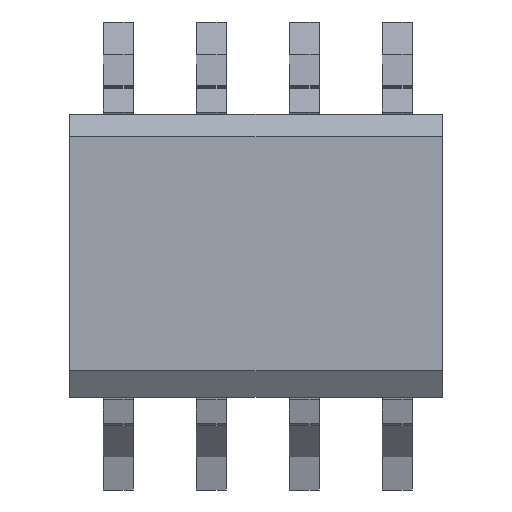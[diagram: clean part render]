
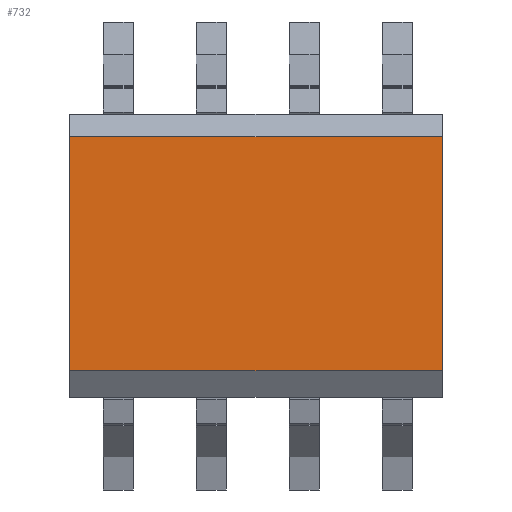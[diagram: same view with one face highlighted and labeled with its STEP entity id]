
A CAD part, top view. The second image highlights one B-rep face of the part: STEP entity #732.
In plain terms, the highlighted planar face has unit normal (0, 0, 1).
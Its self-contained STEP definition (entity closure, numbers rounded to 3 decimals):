
#32 = PLANE('',#33);
#33 = AXIS2_PLACEMENT_3D('',#34,#35,#36);
#34 = CARTESIAN_POINT('',(-2.5,-1.9,0.1));
#35 = DIRECTION('',(1.,0.,0.));
#36 = DIRECTION('',(0.,0.,1.));
#113 = VERTEX_POINT('',#114);
#114 = CARTESIAN_POINT('',(-2.5,1.599,1.7));
#127 = PLANE('',#128);
#128 = AXIS2_PLACEMENT_3D('',#129,#130,#131);
#129 = CARTESIAN_POINT('',(-3.5,-0.4,3.1));
#130 = DIRECTION('',(0.,0.574,0.819));
#131 = DIRECTION('',(1.,0.,0.));
#138 = EDGE_CURVE('',#139,#113,#141,.T.);
#139 = VERTEX_POINT('',#140);
#140 = CARTESIAN_POINT('',(-2.5,-1.543,1.7));
#141 = SURFACE_CURVE('',#142,(#146,#153),.PCURVE_S1.);
#142 = LINE('',#143,#144);
#143 = CARTESIAN_POINT('',(-2.5,-1.9,1.7));
#144 = VECTOR('',#145,1.);
#145 = DIRECTION('',(0.,1.,0.));
#146 = PCURVE('',#32,#147);
#147 = DEFINITIONAL_REPRESENTATION('',(#148),#152);
#148 = LINE('',#149,#150);
#149 = CARTESIAN_POINT('',(1.6,0.));
#150 = VECTOR('',#151,1.);
#151 = DIRECTION('',(0.,-1.));
#152 = ( GEOMETRIC_REPRESENTATION_CONTEXT(2) 
PARAMETRIC_REPRESENTATION_CONTEXT() REPRESENTATION_CONTEXT('2D SPACE',''
  ) );
#153 = PCURVE('',#154,#159);
#154 = PLANE('',#155);
#155 = AXIS2_PLACEMENT_3D('',#156,#157,#158);
#156 = CARTESIAN_POINT('',(-2.5,-1.9,1.7));
#157 = DIRECTION('',(0.,0.,1.));
#158 = DIRECTION('',(1.,0.,0.));
#159 = DEFINITIONAL_REPRESENTATION('',(#160),#164);
#160 = LINE('',#161,#162);
#161 = CARTESIAN_POINT('',(0.,0.));
#162 = VECTOR('',#163,1.);
#163 = DIRECTION('',(0.,1.));
#164 = ( GEOMETRIC_REPRESENTATION_CONTEXT(2) 
PARAMETRIC_REPRESENTATION_CONTEXT() REPRESENTATION_CONTEXT('2D SPACE',''
  ) );
#179 = PLANE('',#180);
#180 = AXIS2_PLACEMENT_3D('',#181,#182,#183);
#181 = CARTESIAN_POINT('',(-3.5,-2.4,1.1));
#182 = DIRECTION('',(0.,-0.574,0.819));
#183 = DIRECTION('',(1.,0.,0.));
#211 = PLANE('',#212);
#212 = AXIS2_PLACEMENT_3D('',#213,#214,#215);
#213 = CARTESIAN_POINT('',(2.5,-1.9,0.1));
#214 = DIRECTION('',(1.,0.,0.));
#215 = DIRECTION('',(0.,0.,1.));
#691 = EDGE_CURVE('',#139,#692,#694,.T.);
#692 = VERTEX_POINT('',#693);
#693 = CARTESIAN_POINT('',(2.5,-1.543,1.7));
#694 = SURFACE_CURVE('',#695,(#699,#705),.PCURVE_S1.);
#695 = LINE('',#696,#697);
#696 = CARTESIAN_POINT('',(-3.,-1.543,1.7));
#697 = VECTOR('',#698,1.);
#698 = DIRECTION('',(1.,0.,0.));
#699 = PCURVE('',#179,#700);
#700 = DEFINITIONAL_REPRESENTATION('',(#701),#704);
#701 = B_SPLINE_CURVE_WITH_KNOTS('',1,(#702,#703),.UNSPECIFIED.,.F.,.F.,
  (2,2),(0.5,5.5),.PIECEWISE_BEZIER_KNOTS.);
#702 = CARTESIAN_POINT('',(1.,1.046));
#703 = CARTESIAN_POINT('',(6.,1.046));
#704 = ( GEOMETRIC_REPRESENTATION_CONTEXT(2) 
PARAMETRIC_REPRESENTATION_CONTEXT() REPRESENTATION_CONTEXT('2D SPACE',''
  ) );
#705 = PCURVE('',#154,#706);
#706 = DEFINITIONAL_REPRESENTATION('',(#707),#710);
#707 = B_SPLINE_CURVE_WITH_KNOTS('',1,(#708,#709),.UNSPECIFIED.,.F.,.F.,
  (2,2),(0.5,5.5),.PIECEWISE_BEZIER_KNOTS.);
#708 = CARTESIAN_POINT('',(0.,0.357));
#709 = CARTESIAN_POINT('',(5.,0.357));
#710 = ( GEOMETRIC_REPRESENTATION_CONTEXT(2) 
PARAMETRIC_REPRESENTATION_CONTEXT() REPRESENTATION_CONTEXT('2D SPACE',''
  ) );
#732 = ADVANCED_FACE('',(#733),#154,.T.);
#733 = FACE_BOUND('',#734,.T.);
#734 = EDGE_LOOP('',(#735,#736,#737,#760));
#735 = ORIENTED_EDGE('',*,*,#138,.F.);
#736 = ORIENTED_EDGE('',*,*,#691,.T.);
#737 = ORIENTED_EDGE('',*,*,#738,.T.);
#738 = EDGE_CURVE('',#692,#739,#741,.T.);
#739 = VERTEX_POINT('',#740);
#740 = CARTESIAN_POINT('',(2.5,1.599,1.7));
#741 = SURFACE_CURVE('',#742,(#746,#753),.PCURVE_S1.);
#742 = LINE('',#743,#744);
#743 = CARTESIAN_POINT('',(2.5,-1.9,1.7));
#744 = VECTOR('',#745,1.);
#745 = DIRECTION('',(0.,1.,0.));
#746 = PCURVE('',#154,#747);
#747 = DEFINITIONAL_REPRESENTATION('',(#748),#752);
#748 = LINE('',#749,#750);
#749 = CARTESIAN_POINT('',(5.,0.));
#750 = VECTOR('',#751,1.);
#751 = DIRECTION('',(0.,1.));
#752 = ( GEOMETRIC_REPRESENTATION_CONTEXT(2) 
PARAMETRIC_REPRESENTATION_CONTEXT() REPRESENTATION_CONTEXT('2D SPACE',''
  ) );
#753 = PCURVE('',#211,#754);
#754 = DEFINITIONAL_REPRESENTATION('',(#755),#759);
#755 = LINE('',#756,#757);
#756 = CARTESIAN_POINT('',(1.6,0.));
#757 = VECTOR('',#758,1.);
#758 = DIRECTION('',(0.,-1.));
#759 = ( GEOMETRIC_REPRESENTATION_CONTEXT(2) 
PARAMETRIC_REPRESENTATION_CONTEXT() REPRESENTATION_CONTEXT('2D SPACE',''
  ) );
#760 = ORIENTED_EDGE('',*,*,#761,.T.);
#761 = EDGE_CURVE('',#739,#113,#762,.T.);
#762 = SURFACE_CURVE('',#763,(#767,#773),.PCURVE_S1.);
#763 = LINE('',#764,#765);
#764 = CARTESIAN_POINT('',(-3.,1.599,1.7));
#765 = VECTOR('',#766,1.);
#766 = DIRECTION('',(-1.,0.,0.));
#767 = PCURVE('',#154,#768);
#768 = DEFINITIONAL_REPRESENTATION('',(#769),#772);
#769 = B_SPLINE_CURVE_WITH_KNOTS('',1,(#770,#771),.UNSPECIFIED.,.F.,.F.,
  (2,2),(-5.5,-0.5),.PIECEWISE_BEZIER_KNOTS.);
#770 = CARTESIAN_POINT('',(5.,3.499));
#771 = CARTESIAN_POINT('',(0.,3.499));
#772 = ( GEOMETRIC_REPRESENTATION_CONTEXT(2) 
PARAMETRIC_REPRESENTATION_CONTEXT() REPRESENTATION_CONTEXT('2D SPACE',''
  ) );
#773 = PCURVE('',#127,#774);
#774 = DEFINITIONAL_REPRESENTATION('',(#775),#778);
#775 = B_SPLINE_CURVE_WITH_KNOTS('',1,(#776,#777),.UNSPECIFIED.,.F.,.F.,
  (2,2),(-5.5,-0.5),.PIECEWISE_BEZIER_KNOTS.);
#776 = CARTESIAN_POINT('',(6.,2.441));
#777 = CARTESIAN_POINT('',(1.,2.441));
#778 = ( GEOMETRIC_REPRESENTATION_CONTEXT(2) 
PARAMETRIC_REPRESENTATION_CONTEXT() REPRESENTATION_CONTEXT('2D SPACE',''
  ) );
